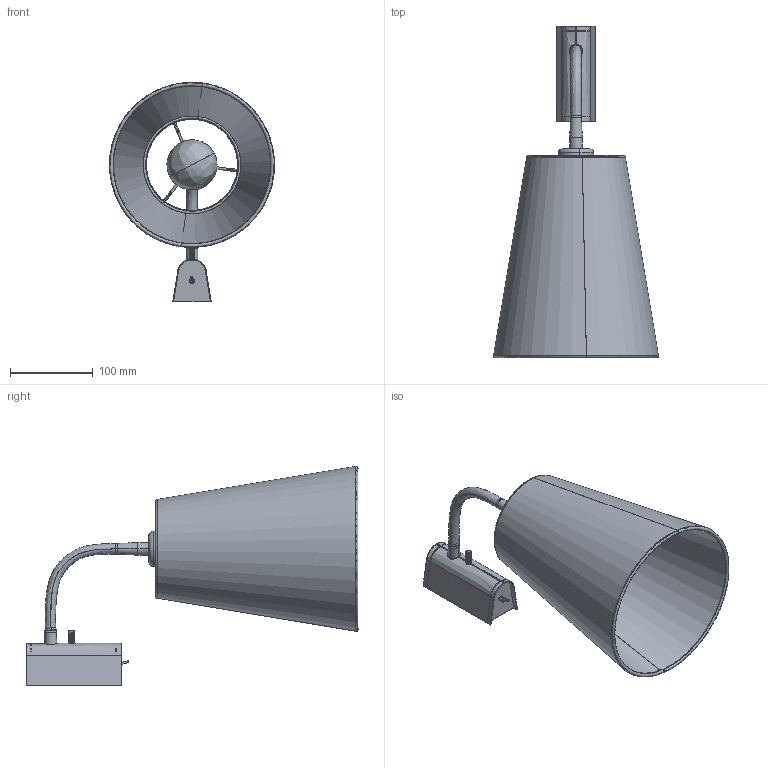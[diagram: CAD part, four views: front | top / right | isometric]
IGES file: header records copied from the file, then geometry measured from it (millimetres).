
Start section: SolidWorks IGES file using analytic representation for surfaces
Global section: file name: Z:\Modele 3D_WWW\_KOLEKCJE_WWW\FLEX-SHADE\FLEX-SHADE-I-9764-9758\FLEX-SHADE-I-9764-9758.IGS; native system: SolidWorks 2021; preprocessor: SolidWorks 2021; author: gabriela.tworek; date: 210727.144736; units: millimetre
Bounding box: 199.41 x 401.02 x 265.01 mm (x, y, z)
Surface area: 382321.4 mm2 (no closed solid volume)
Topology: 0 solids, 0 shells, 420 faces, 5467 edges, 5441 vertices
Faces by surface type: revolution 233, bspline 187
